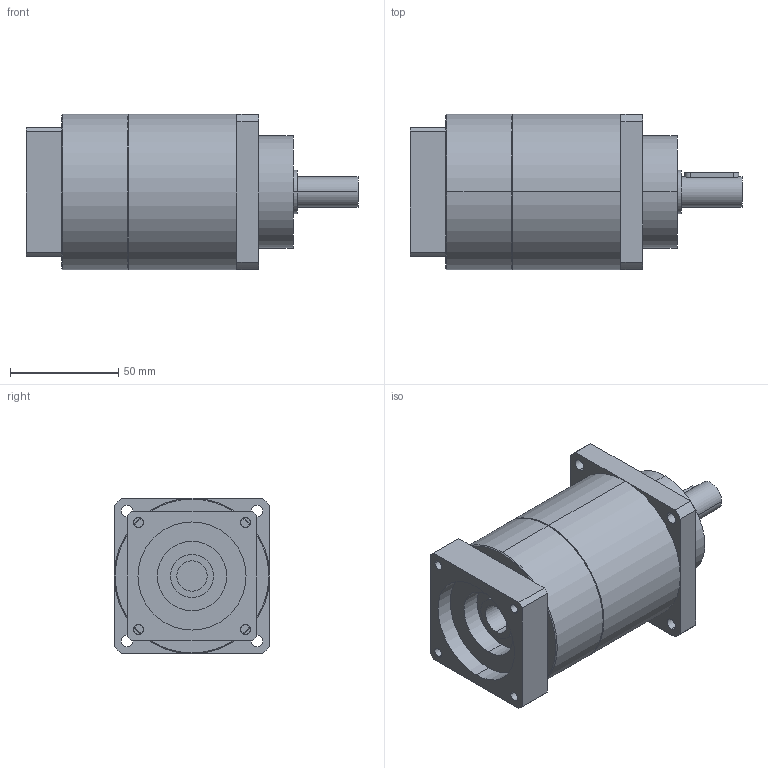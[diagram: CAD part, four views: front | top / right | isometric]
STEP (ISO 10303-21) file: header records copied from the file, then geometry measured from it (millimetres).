
FILE_DESCRIPTION(('CoCreate Modeling STEP Export'),'2;1');
FILE_NAME('GPT75_ig-9-12-16-20-25-28-35-40-50-70-100_14_B5T_14_P17.stp','2014-08-27T13:37:56',(''),(''),'CoCreate Modeling STEP processor for AP214 (Solid Model)','CoCreate Modeling 16.00C 25-Feb-2009 (C) Parametric Technology GmbH','');
FILE_SCHEMA(('AUTOMOTIVE_DESIGN { 1 0 10303 214 1 1 1 1 }'));
Length unit declared in the file: millimetre
Products named in the file (2): GPT75_ig-9-12-16-20-25-28-35-40-50-70-100_14_B5T_14_P17
Assembly tree (1 placements, depth 2):
  GPT75_ig-9-12-16-20-25-28-35-40-50-70-100_14_B5T_14_P17
    GPT75_ig-9-12-16-20-25-28-35-40-50-70-100_14_B5T_14_P17
Bounding box: 153.5 x 72 x 72 mm (x, y, z)
Volume: 451171.6 mm3; surface area: 45226.2 mm2
Topology: 1 solids, 1 shells, 88 faces, 226 edges, 145 vertices
Faces by surface type: cylinder 46, plane 38, cone 4
Entity records: 2676 total; most frequent: CARTESIAN_POINT 744, ORIENTED_EDGE 452, DIRECTION 334, EDGE_CURVE 226, VERTEX_POINT 145, AXIS2_PLACEMENT_3D 123, EDGE_LOOP 109, VECTOR 88
